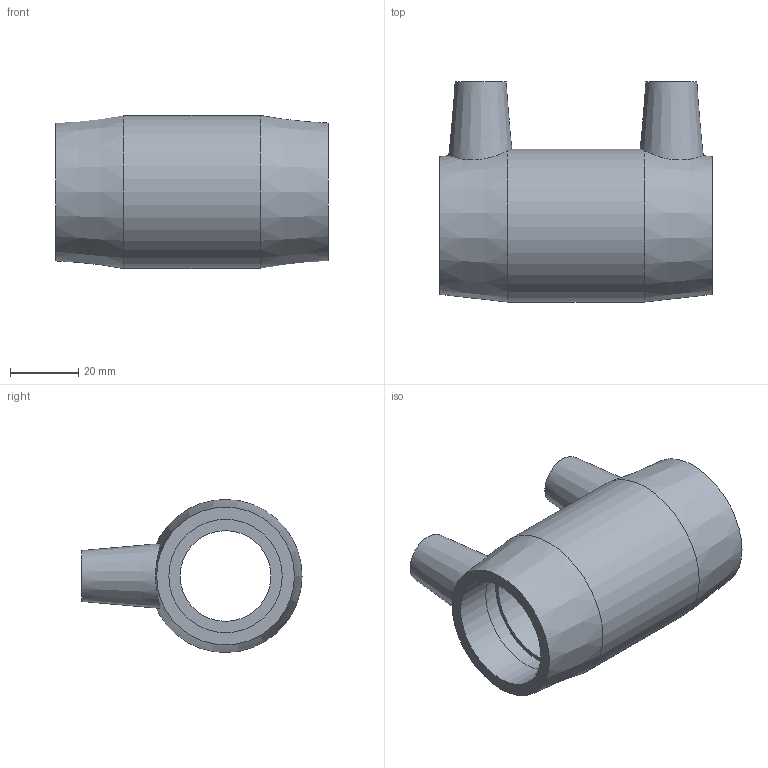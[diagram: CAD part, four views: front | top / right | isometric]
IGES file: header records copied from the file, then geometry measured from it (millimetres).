
Global section: file name: 5901B004010.ipt; native system: Autodesk Inventor 2019; preprocessor: unknown; author: KIM; date: 20210830.100907; units: inch
Bounding box: 80.01 x 64.64 x 44.95 mm (x, y, z)
Volume: 58661.3 mm3; surface area: 24420 mm2
Topology: 1 solids, 1 shells, 30 faces, 66 edges, 46 vertices
Faces by surface type: plane 12, revolution 11, cone 4, cylinder 3
Full cylindrical faces by diameter (mm): 4 x2, 44.958 x1
